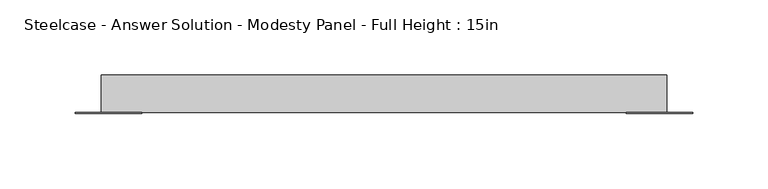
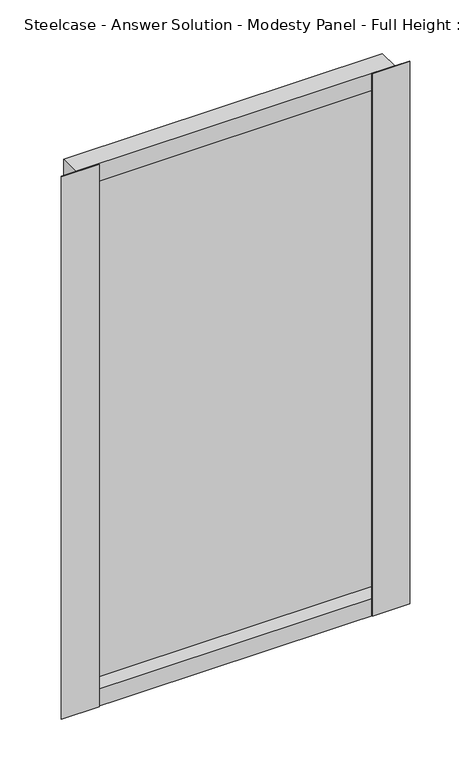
"""IFC4 building model written with IfcOpenShell, lengths in millimetres: furniture geometry, Steelcase - Answer Solution - Modesty Panel - Full Height : 15in."""

from ifc_helpers import new_model, si_unit, frame, origin, place, context, project, spatial, polyline, outline, extrude, faceted_brep, source, transform, mapped, element, save


def steelcase_answer_solution_modesty_panel_full_height_15in_74964b7b(model_context):
    return source(origin(), model_context, "Body", "SolidModel", [
        extrude(outline(polyline([(924.5400478, -14.2668826), (924.5400478, -15.0593624), (880.1248254, -15.0593624), (880.1248254, -14.2668826), (924.5400478, -14.2668826)])), frame((0.0, 0.0, 17.653), z_axis=(0.0, 0.0, 1.0), x_axis=(1.0, 0.0, 0.0)), (0.0, 0.0, 1.0), 678.18),
        extrude(outline(polyline([(556.9673392, -14.2668826), (556.9673392, -15.0593624), (512.5520826, -15.0593624), (512.5520826, -14.2668826), (556.9673392, -14.2668826)])), frame((0.0, 0.0, 17.653), z_axis=(0.0, 0.0, 1.0), x_axis=(1.0, 0.0, 0.0)), (0.0, 0.0, 1.0), 678.18),
        faceted_brep([(530.0780827, 10.9045177, 17.653), (530.0780827, -14.2668826, 17.653), (530.0780827, -14.2668826, 695.833), (530.0780827, 10.9045177, 695.833), (907.0140827, -14.2668826, 17.653), (907.0140827, 10.9045177, 17.653), (907.0140827, 10.9045177, 695.833), (907.0140827, -14.2668826, 695.833), (906.2216165, 4.7831174, 39.243), (530.8705628, 4.7831174, 39.243), (530.8705628, -14.2668826, 39.243), (906.2216165, -14.2668826, 39.243), (530.8705628, -14.2668826, 674.243), (906.2216165, -14.2668826, 674.243), (530.8705628, 4.7831174, 674.243), (906.2216165, 4.7831174, 674.243)], [[[0, 1, 2, 3]], [[4, 5, 6, 7]], [[8, 9, 10, 11]], [[0, 3, 6, 5]], [[4, 1, 0, 5]], [[2, 1, 4, 7], [10, 12, 13, 11]], [[3, 2, 7, 6]], [[14, 15, 13, 12]], [[9, 8, 15, 14]], [[12, 10, 9, 14]], [[11, 13, 15, 8]]]),
    ])


if __name__ == "__main__":
    model = new_model("IFC4")
    model_context = context("Model", 3, world=origin())
    ifc_project = project(units=[si_unit("LENGTHUNIT", "METRE", prefix="MILLI")], contexts=[model_context])
    site = spatial("IfcSite", under=ifc_project)
    building = spatial("IfcBuilding", under=site)
    placement = place(None, origin())
    steelcase_answer_solution_modesty_panel_full_height_15in_shape = steelcase_answer_solution_modesty_panel_full_height_15in_74964b7b(model_context)
    element("IfcFurniture", 1, ObjectType="Steelcase - Answer Solution - Modesty Panel - Full Height : 15in", at=placement, inside=building, context=model_context, shape_type="MappedRepresentation", body=[
        mapped(steelcase_answer_solution_modesty_panel_full_height_15in_shape, transform((0.0, 0.0, 0.0), x_axis=(1.0, 0.0, 0.0), y_axis=(0.0, 1.0, 0.0), z_axis=(0.0, 0.0, 1.0))),
    ])
    save(model, "model.ifc")
